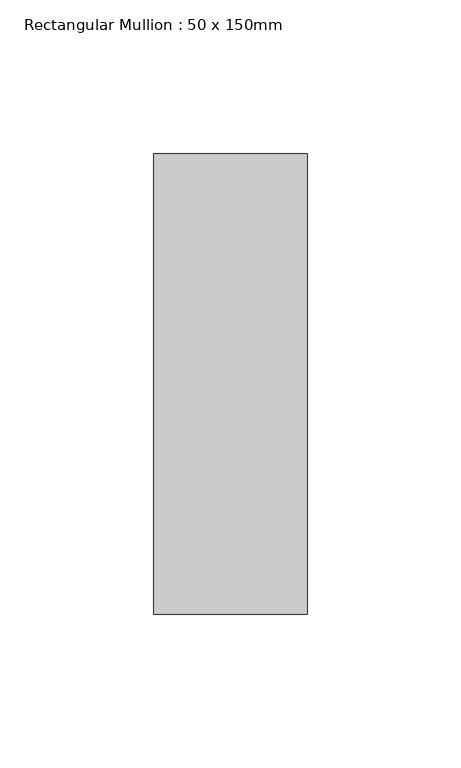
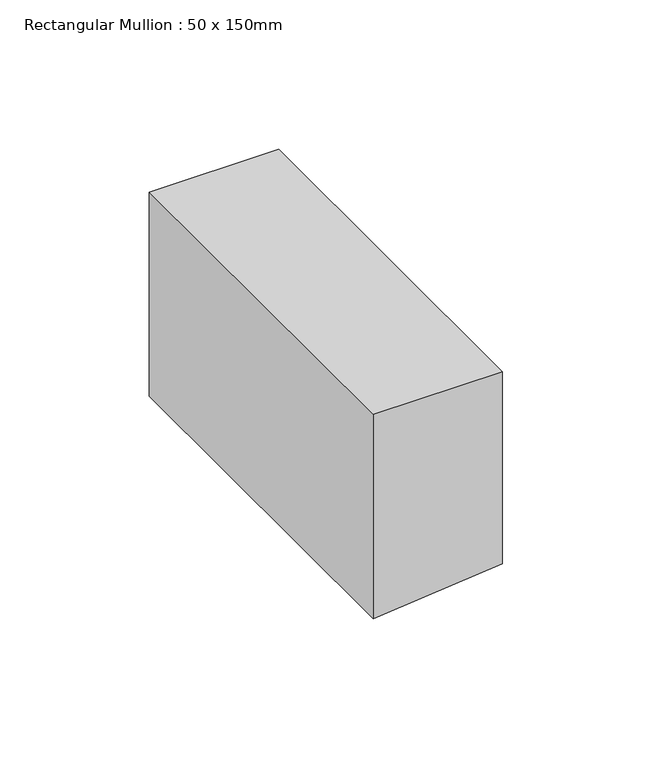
"""IFC4 building model written with IfcOpenShell, lengths in millimetres: member geometry, Rectangular Mullion : 50 x 150mm."""

from ifc_helpers import new_model, si_unit, frame, origin, place, context, project, spatial, polyline, outline, extrude, source, transform, mapped, element, save


def rectangular_mullion_50_x_150mm_e60e84ba(model_context):
    return source(origin(), model_context, "Body", "SweptSolid", [
        extrude(outline(polyline([(0.0, 25.0), (0.0, -25.0), (-83.5441899, -25.0), (-81.5334228, -5.0022633), (-78.5167032, 25.0), (0.0, 25.0)])), frame((0.0, -75.0, 0.0), z_axis=(0.0, 1.0, 0.0), x_axis=(0.0, 0.0, 1.0)), (0.0, 0.0, 1.0), 150.0),
    ])


if __name__ == "__main__":
    model = new_model("IFC4")
    model_context = context("Model", 3, world=origin())
    ifc_project = project(units=[si_unit("LENGTHUNIT", "METRE", prefix="MILLI")], contexts=[model_context])
    site = spatial("IfcSite", under=ifc_project)
    building = spatial("IfcBuilding", under=site)
    placement = place(None, origin())
    rectangular_mullion_50_x_150mm_shape = rectangular_mullion_50_x_150mm_e60e84ba(model_context)
    element("IfcMember", 1, ObjectType="Rectangular Mullion : 50 x 150mm", at=placement, inside=building, context=model_context, shape_type="MappedRepresentation", body=[
        mapped(rectangular_mullion_50_x_150mm_shape, transform((0.0, 0.0, 0.0), x_axis=(1.0, 0.0, 0.0), y_axis=(0.0, 1.0, 0.0), z_axis=(0.0, 0.0, 1.0))),
    ])
    save(model, "model.ifc")
